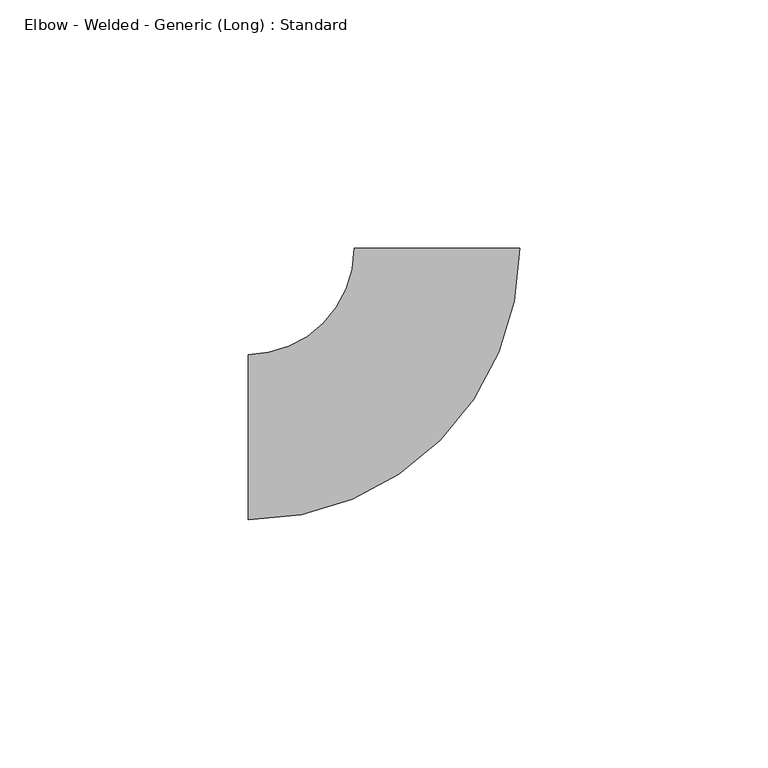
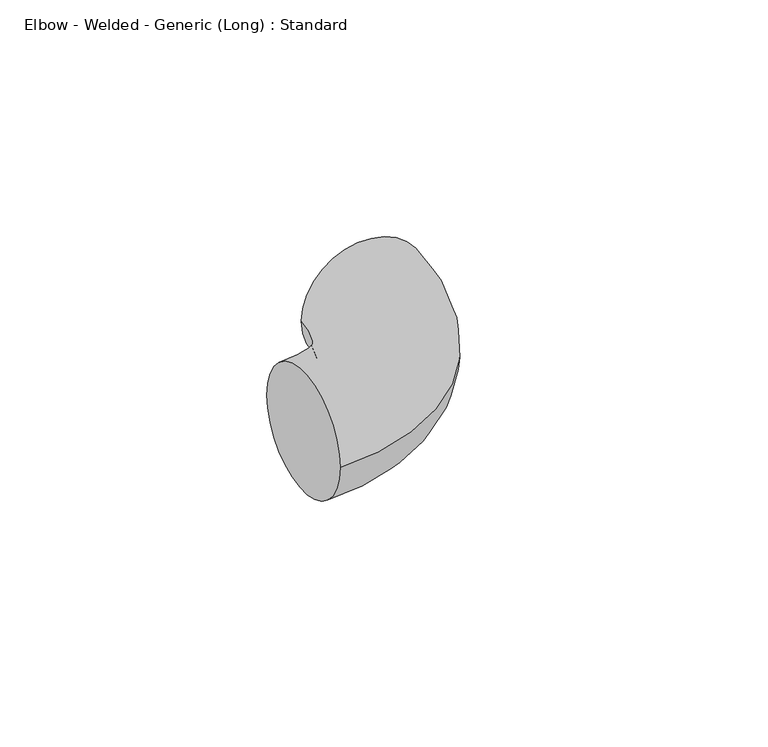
"""IFC4 building model written with IfcOpenShell, lengths in millimetres: pipe fitting geometry, Elbow - Welded - Generic (Long) : Standard."""

from ifc_helpers import new_model, si_unit, point, frame, origin, place, context, project, spatial, circle_curve, ellipse_curve, trimmed, source, transform, mapped, element, save
from ifc_brep_helpers import plane_surface, revolved_surface, advanced_brep


def elbow_welded_generic_long_standard_0a766ed1(model_context):
    return source(origin(), model_context, "Body", "AdvancedBrep", [
        advanced_brep(
        [(-38.1, -16.66875, 0.0), (-38.1, 16.66875, 0.0), (16.6150715, 38.1234393, 0.0), (-16.7223955, 38.0764851, 0.0)],
        [
            (0, 1, circle_curve(frame((-38.1, 0.0, 0.0), z_axis=(-1.0, 0.0, 0.0), x_axis=(0.0, 1.0, 0.0)), 16.66875)),
            (1, 0, circle_curve(frame((-38.1, 0.0, 0.0), z_axis=(-1.0, 0.0, 0.0), x_axis=(0.0, 1.0, 0.0)), 16.66875)),
            (2, 3, circle_curve(frame((-0.053662, 38.0999622, 0.0), z_axis=(-0.0014084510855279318, 0.9999990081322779, 0.0), x_axis=(-0.9999990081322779, -0.0014084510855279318, 0.0)), 16.66875)),
            (3, 2, circle_curve(frame((-0.053662, 38.0999622, 0.0), z_axis=(-0.0014084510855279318, 0.9999990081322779, 0.0), x_axis=(-0.9999990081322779, -0.0014084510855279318, 0.0)), 16.66875)),
            (3, 1, circle_curve(frame((-38.1, 38.0463758, 0.0), z_axis=(0.0, 0.0, -1.0), x_axis=(0.0, -1.0, 0.0)), 21.3776258)),
            (0, 2, circle_curve(frame((-38.1, 38.0463758, 0.0), z_axis=(0.0, 0.0, 1.0), x_axis=(0.0, -1.0, 0.0)), 54.7151258)),
        ],
        [
            plane_surface(frame((-38.1, 0.0, 0.0), z_axis=(-1.0, 0.0, 0.0), x_axis=(0.0, 0.0, 1.0))),
            plane_surface(frame((-0.053662, 38.0999622, 0.0), z_axis=(-0.0014084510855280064, 0.999999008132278, 0.0), x_axis=(0.0, 0.0, 1.0))),
            revolved_surface(trimmed(ellipse_curve(frame((-38.1, 0.0, 0.0), z_axis=(-1.0, 0.0, 0.0), x_axis=(0.0, 1.0, 0.0)), 16.66875, 16.66875), [point((-38.1, -16.66875, 0.0))], [point((-38.1, 16.66875, 0.0))], True, "CARTESIAN"), (-38.1, 38.0463758, 0.0), (0.0, 0.0, 1.0)),
            revolved_surface(trimmed(ellipse_curve(frame((-38.1, 0.0, 0.0), z_axis=(-1.0, 0.0, 0.0), x_axis=(0.0, 1.0, 0.0)), 16.66875, 16.66875), [point((-38.1, 16.66875, 0.0))], [point((-38.1, -16.66875, 0.0))], True, "CARTESIAN"), (-38.1, 38.0463758, 0.0), (0.0, 0.0, 1.0)),
        ],
        [
            (0, [[1, 2]]),
            (1, [[3, 4]]),
            (2, [[5, -1, 6, -4]]),
            (3, [[-6, -2, -5, -3]]),
        ],
    ),
    ])


if __name__ == "__main__":
    model = new_model("IFC4")
    model_context = context("Model", 3, world=origin())
    ifc_project = project(units=[si_unit("LENGTHUNIT", "METRE", prefix="MILLI")], contexts=[model_context])
    site = spatial("IfcSite", under=ifc_project)
    building = spatial("IfcBuilding", under=site)
    placement = place(None, origin())
    elbow_welded_generic_long_standard_shape = elbow_welded_generic_long_standard_0a766ed1(model_context)
    element("IfcPipeFitting", 1, ObjectType="Elbow - Welded - Generic (Long) : Standard", at=placement, inside=building, context=model_context, shape_type="MappedRepresentation", body=[
        mapped(elbow_welded_generic_long_standard_shape, transform((0.0, 0.0, 0.0), x_axis=(1.0, 0.0, 0.0), y_axis=(0.0, 1.0, 0.0), z_axis=(0.0, 0.0, 1.0))),
    ])
    save(model, "model.ifc")
